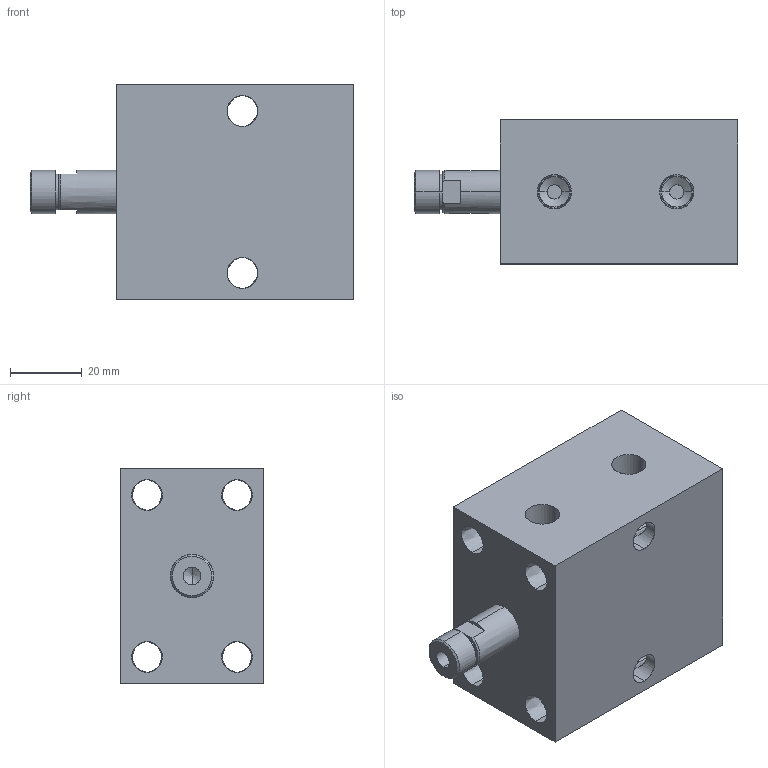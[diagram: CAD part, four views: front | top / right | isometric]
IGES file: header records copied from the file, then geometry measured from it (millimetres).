
Start section: SolidWorks IGES file using analytic representation for surfaces
Global section: file name: D:\Rajib\standards\BLOCK CYLINDER HYDRAULIC\0101-0106\0102.IGS; native system: SolidWorks 2007; preprocessor: SolidWorks 2007; author: rajib; date: 110117.094630; units: millimetre
Bounding box: 90 x 40 x 60 mm (x, y, z)
Surface area: 27687.5 mm2 (no closed solid volume)
Topology: 0 solids, 0 shells, 80 faces, 1748 edges, 1746 vertices
Faces by surface type: revolution 60, bspline 20
